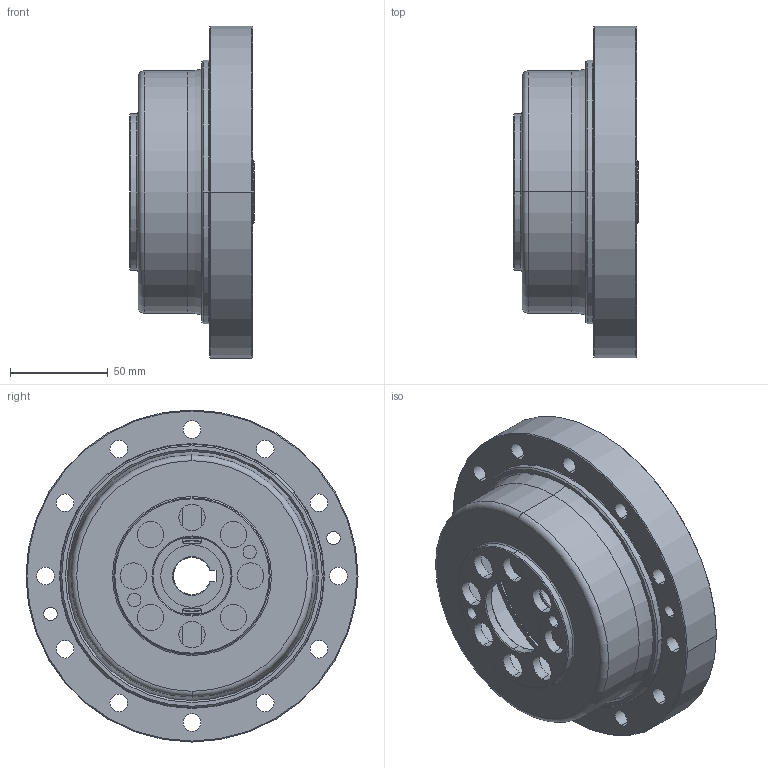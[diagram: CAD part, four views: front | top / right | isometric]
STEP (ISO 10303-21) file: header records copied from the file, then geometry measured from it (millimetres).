
FILE_DESCRIPTION (( 'STEP AP203' ), '1' );
FILE_NAME ('FCG-50-XXX-CO.STEP', '2023-02-22T09:01:56', ( '微软用户' ), ( '微软中国' ), 'SwSTEP 2.0', 'SolidWorks 2016', '' );
FILE_SCHEMA (( 'CONFIG_CONTROL_DESIGN' ));
Length unit declared in the file: millimetre
Products named in the file (1): FCG-50-XXX-CO
Bounding box: 64 x 170 x 170 mm (x, y, z)
Volume: 468482.4 mm3; surface area: 218750.8 mm2
Topology: 34 solids, 34 shells, 547 faces, 1453 edges, 934 vertices
Faces by surface type: cylinder 196, plane 177, cone 88, sphere 46, torus 34, bspline 6
Entity records: 19896 total; most frequent: CARTESIAN_POINT 6393, DIRECTION 3033, ORIENTED_EDGE 2676, EDGE_CURVE 1338, AXIS2_PLACEMENT_3D 1260, VERTEX_POINT 865, CIRCLE 718, EDGE_LOOP 625
